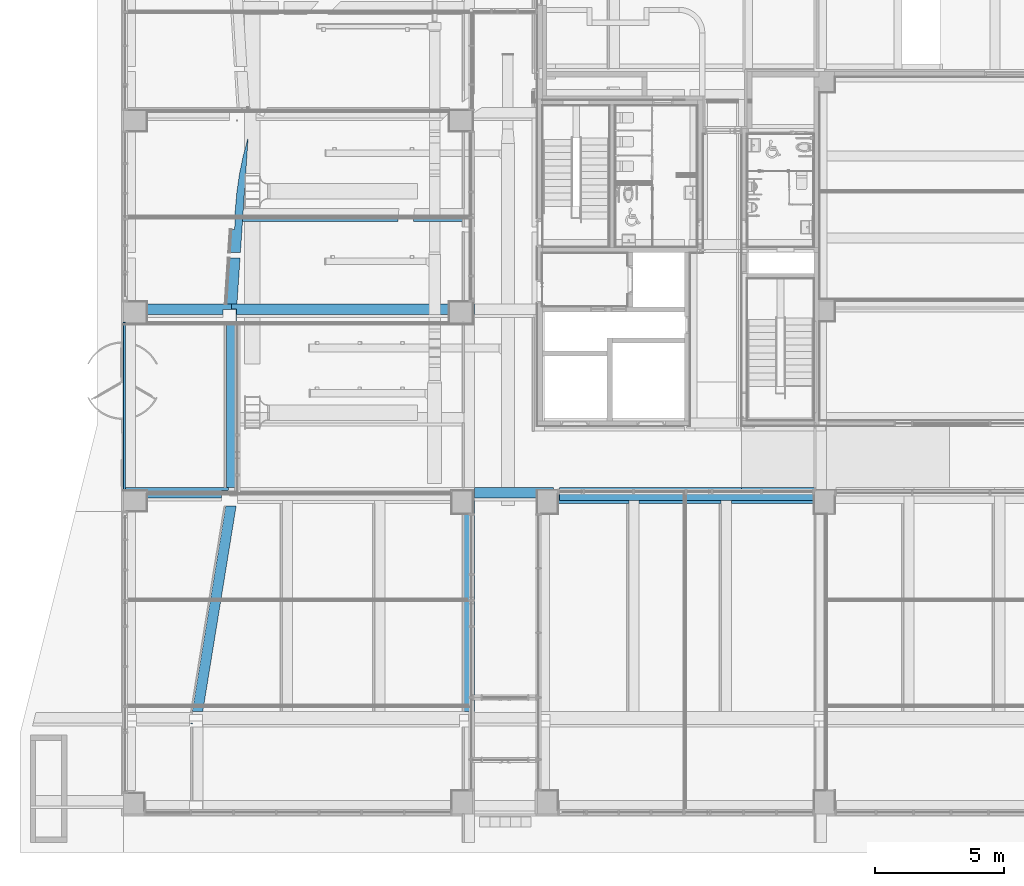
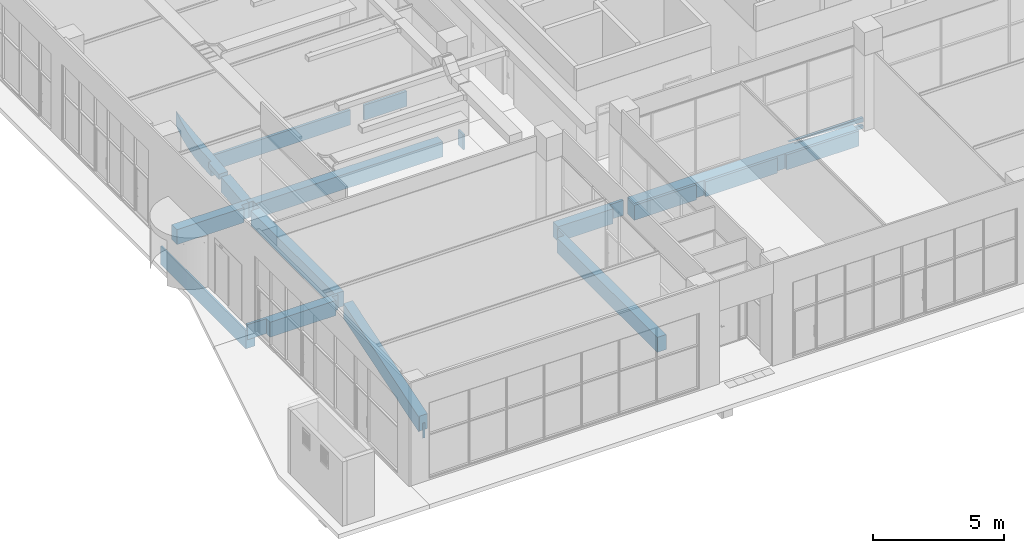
# One storey, part 55 of 100: 12 beams.
"""IFC2X3 building model written with IfcOpenShell, lengths in millimetres."""

from ifc_helpers import new_model, entity, si_unit, converted_unit, derived_unit, direction, frame, origin, place, context, subcontext, project, spatial, faceted_brep, source, transform, mapped, material, material_list, type_object, type_shapes, element, save


model = new_model("IFC2X3")

# Units and contexts
model_context = context("Model", 3, precision=0.01, world=origin(), true_north=direction((6.123031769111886e-17, 1.0)))
body_context = subcontext(model_context, "Body", "Model", "MODEL_VIEW")
ifc_project = project(units=[si_unit("LENGTHUNIT", "METRE", prefix="MILLI"), si_unit("AREAUNIT", "SQUARE_METRE"), si_unit("VOLUMEUNIT", "CUBIC_METRE"), converted_unit("PLANEANGLEUNIT", "DEGREE", entity("IfcRatioMeasure", 0.017453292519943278), si_unit("PLANEANGLEUNIT", "RADIAN"), dimensions=[0, 0, 0, 0, 0, 0, 0]), si_unit("MASSUNIT", "GRAM", prefix="KILO"), derived_unit("MASSDENSITYUNIT", [(si_unit("MASSUNIT", "GRAM", prefix="KILO"), 1), (si_unit("LENGTHUNIT", "METRE"), -3)]), derived_unit("MOMENTOFINERTIAUNIT", [(si_unit("LENGTHUNIT", "METRE"), 4)]), si_unit("TIMEUNIT", "SECOND"), si_unit("FREQUENCYUNIT", "HERTZ"), si_unit("THERMODYNAMICTEMPERATUREUNIT", "DEGREE_CELSIUS"), derived_unit("THERMALTRANSMITTANCEUNIT", [(si_unit("MASSUNIT", "GRAM", prefix="KILO"), 1), (si_unit("THERMODYNAMICTEMPERATUREUNIT", "KELVIN"), -1), (si_unit("TIMEUNIT", "SECOND"), -3)]), derived_unit("VOLUMETRICFLOWRATEUNIT", [(si_unit("LENGTHUNIT", "METRE"), 3), (si_unit("TIMEUNIT", "SECOND"), -1)]), derived_unit("MASSFLOWRATEUNIT", [(si_unit("MASSUNIT", "GRAM", prefix="KILO"), 1), (si_unit("TIMEUNIT", "SECOND"), -1)]), derived_unit("ROTATIONALFREQUENCYUNIT", [(si_unit("TIMEUNIT", "SECOND"), -1)]), si_unit("ELECTRICCURRENTUNIT", "AMPERE"), si_unit("ELECTRICVOLTAGEUNIT", "VOLT"), si_unit("POWERUNIT", "WATT"), si_unit("FORCEUNIT", "NEWTON", prefix="KILO"), si_unit("ILLUMINANCEUNIT", "LUX"), si_unit("LUMINOUSFLUXUNIT", "LUMEN"), si_unit("LUMINOUSINTENSITYUNIT", "CANDELA"), derived_unit("USERDEFINED", [(si_unit("MASSUNIT", "GRAM", prefix="KILO"), -1), (si_unit("LENGTHUNIT", "METRE"), -2), (si_unit("TIMEUNIT", "SECOND"), 3), (si_unit("LUMINOUSFLUXUNIT", "LUMEN"), 1)]), derived_unit("SOUNDPOWERUNIT", [(si_unit("MASSUNIT", "GRAM", prefix="KILO"), 1), (si_unit("LENGTHUNIT", "METRE"), 2), (si_unit("TIMEUNIT", "SECOND"), -3)]), derived_unit("SOUNDPRESSUREUNIT", [(si_unit("MASSUNIT", "GRAM", prefix="KILO"), 1), (si_unit("LENGTHUNIT", "METRE"), -1), (si_unit("TIMEUNIT", "SECOND"), -2)]), derived_unit("LINEARVELOCITYUNIT", [(si_unit("LENGTHUNIT", "METRE"), 1), (si_unit("TIMEUNIT", "SECOND"), -1)]), si_unit("PRESSUREUNIT", "PASCAL"), derived_unit("USERDEFINED", [(si_unit("LENGTHUNIT", "METRE"), -2), (si_unit("MASSUNIT", "GRAM", prefix="KILO"), 1), (si_unit("TIMEUNIT", "SECOND"), -2)]), derived_unit("LINEARFORCEUNIT", [(si_unit("MASSUNIT", "GRAM", prefix="KILO"), 1), (si_unit("LENGTHUNIT", "METRE"), 1), (si_unit("TIMEUNIT", "SECOND"), -2), (si_unit("LENGTHUNIT", "METRE"), -1)]), derived_unit("PLANARFORCEUNIT", [(si_unit("MASSUNIT", "GRAM", prefix="KILO"), 1), (si_unit("LENGTHUNIT", "METRE"), 1), (si_unit("TIMEUNIT", "SECOND"), -2), (si_unit("LENGTHUNIT", "METRE"), -2)])], contexts=[model_context])

# Site, building, storey
site_placement = place(None, frame((-14167.972527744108, -657.2125860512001, 0.0)))
site = spatial("IfcSite", under=ifc_project, at=site_placement, Name="Default", CompositionType="ELEMENT")
building_placement = place(site_placement, origin())
building = spatial("IfcBuilding", under=site, at=building_placement, Name="Sample Building", CompositionType="ELEMENT")
storey_placement = place(building_placement, origin())
storey = spatial("IfcBuildingStorey", under=building, at=storey_placement, Name="지상 1층", CompositionType="ELEMENT", Elevation=0.0)

# Beams
ifc_material = material(Name="KBIMS-콘크리트")
beam_type_1 = type_object("IfcBeamType", Name="BM111-철근콘크리트구조 보:BM110-철근 콘크리트구조 보_400 x 850_B1-1G3", PredefinedType="NOTDEFINED")
beam_1_placement = place(storey_placement, frame((14143.245899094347, 12771.077102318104, -850.0)))
element("IfcBeam", 1, at=beam_1_placement, inside=storey, type_object=beam_type_1, material=ifc_material, Name="BM111-철근콘크리트구조 보:BM110-철근 콘크리트구조 보_400 x 850_B1-1G3", ObjectType="BM111-철근콘크리트구조 보:BM110-철근 콘크리트구조 보_400 x 850_B1-1G3", context=body_context, shape_type="Brep", body=[
    faceted_brep([(0.0, 400.0, 700.0), (3824.7005496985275, 400.0, 700.0), (3900.0, 400.0, 700.0), (3992.2531717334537, 400.0, 700.0), (3992.253171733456, 400.0, 0.0), (3900.0, 400.0, 0.0), (3824.70054969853, 400.0, 0.0), (400.0, 400.0, 0.0), (400.0, 400.0, 450.0), (0.0, 400.0, 450.0), (824.7092060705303, 286.13551472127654, 0.0), (324.7005496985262, 286.13551472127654, 0.0), (0.0, 286.1355147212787, 0.0), (0.0, 287.00001284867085, 0.0), (324.7005496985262, 287.0000128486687, 0.0), (400.0, 287.0000128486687, 0.0), (3973.7501839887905, 286.1354620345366, 0.0), (3900.0, 286.1354620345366, 0.0), (3724.7005496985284, 286.1354620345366, 0.0), (3724.7005496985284, 0.0, 0.0), (824.7092060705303, 0.0, 0.0), (824.7092060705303, 0.0, 700.0), (3724.7005496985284, 0.0, 700.0), (0.0, 286.13551472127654, 700.0), (824.7092060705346, 286.13551472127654, 700.0), (3724.7005496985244, 286.1354620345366, 700.0), (3900.0, 286.1354620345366, 700.0), (3973.7501839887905, 286.1354620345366, 700.0), (0.0, 287.00001284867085, 450.0), (0.0, 286.13551472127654, 450.0), (400.0, 287.0000128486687, 450.0)], [[[0, 1, 2, 3, 4, 5, 6, 7, 8, 9]], [[10, 11, 12, 13, 14, 15, 7, 6, 5, 4, 16, 17, 18, 19, 20]], [[21, 20, 19, 22]], [[3, 2, 1, 0, 23, 24, 21, 22, 25, 26, 27]], [[23, 0, 9, 28, 13, 12, 29]], [[4, 3, 27, 16]], [[10, 24, 23, 29, 12, 11]], [[24, 10, 20, 21]], [[18, 25, 22, 19]], [[25, 18, 17, 16, 27, 26]], [[28, 30, 15, 14, 13]], [[30, 28, 9, 8]], [[15, 30, 8, 7]]]),
])
beam_2_placement = place(storey_placement, frame((27642.874705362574, 12771.077102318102, -850.0)))
element("IfcBeam", 2, at=beam_2_placement, inside=storey, type_object=beam_type_1, material=ifc_material, Name="BM111-철근콘크리트구조 보:BM110-철근 콘크리트구조 보_400 x 850_B1-1G3", ObjectType="BM111-철근콘크리트구조 보:BM110-철근 콘크리트구조 보_400 x 850_B1-1G3", context=body_context, shape_type="Brep", body=[
    faceted_brep([(0.0, 400.0, 700.0), (3050.379886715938, 400.0, 700.0), (3050.379886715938, 400.0, 0.0), (0.0, 400.0, 0.0), (3050.379886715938, 286.13551472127, 0.0), (2425.0804089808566, 286.13551472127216, 0.0), (2425.0804089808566, 0.0, 0.0), (0.0, 0.0, 0.0), (0.0, 0.0, 700.0), (2425.0804089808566, 0.0, 700.0), (2425.0804089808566, 286.13551472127, 700.0), (3050.379886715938, 286.13551472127, 700.0)], [[[0, 1, 2, 3]], [[3, 2, 4, 5, 6, 7]], [[8, 7, 6, 9]], [[1, 0, 8, 9, 10, 11]], [[2, 1, 11, 4]], [[0, 3, 7, 8]], [[5, 10, 9, 6]], [[10, 5, 4, 11]]]),
])
beam_3_placement = place(storey_placement, frame((14967.955105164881, 19871.077115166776, -850.0)))
element("IfcBeam", 3, at=beam_3_placement, inside=storey, type_object=beam_type_1, material=ifc_material, Name="BM111-철근콘크리트구조 보:BM110-철근 콘크리트구조 보_400 x 850_B1-1G3", ObjectType="BM111-철근콘크리트구조 보:BM110-철근 콘크리트구조 보_400 x 850_B1-1G3", context=body_context, shape_type="Brep", body=[
    faceted_brep([(3275.2907939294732, 400.0, 700.0), (3275.2907939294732, 400.0, 0.0), (3088.262040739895, 400.0, 0.0), (3020.6034975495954, 400.0, 0.0), (0.0, 400.0, 0.0), (0.0, 400.0, 700.0), (3020.603497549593, 400.0, 700.0), (3088.2620407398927, 400.0, 700.0), (3275.2907939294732, 200.0, 0.0), (3275.2907939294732, 186.1355018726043, 0.0), (2949.991343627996, 186.1355018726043, 0.0), (2949.991343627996, 0.0, 0.0), (0.0, 0.0, 0.0), (0.0, 0.0, 700.0), (2949.991343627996, 0.0, 700.0), (2949.991343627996, 186.1355018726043, 700.0), (3275.2907939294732, 186.1355018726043, 700.0), (3275.2907939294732, 200.0, 700.0)], [[[0, 1, 2, 3, 4, 5, 6, 7]], [[4, 3, 2, 1, 8, 9, 10, 11, 12]], [[13, 12, 11, 14]], [[0, 7, 6, 5, 13, 14, 15, 16, 17]], [[1, 0, 17, 16, 9, 8]], [[5, 4, 12, 13]], [[10, 15, 14, 11]], [[15, 10, 9, 16]]]),
])
beam_type_2 = type_object("IfcBeamType", Name="BM111-철근콘크리트구조 보:BM110-철근 콘크리트구조 보_500 x 850_B1-1G5", PredefinedType="NOTDEFINED")
beam_4_placement = place(storey_placement, frame((30934.217765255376, 12671.0771023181, -850.0)))
element("IfcBeam", 4, at=beam_4_placement, inside=storey, type_object=beam_type_2, material=ifc_material, Name="BM111-철근콘크리트구조 보:BM110-철근 콘크리트구조 보_500 x 850_B1-1G5", ObjectType="BM111-철근콘크리트구조 보:BM110-철근 콘크리트구조 보_500 x 850_B1-1G5", context=body_context, shape_type="Brep", body=[
    faceted_brep([(0.0, 500.0, 0.0), (0.0, 386.1355018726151, 0.0), (0.0, 0.0, 0.0), (0.0, 0.0, 700.0), (0.0, 386.1355018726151, 700.0), (0.0, 500.0, 700.0), (7033.746032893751, 500.0, 850.0), (7033.74603289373, 386.13528076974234, 850.0), (10033.746032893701, 386.13528076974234, 850.0), (10309.036826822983, 386.13528076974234, 850.0), (10309.036826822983, 500.0, 850.0), (10309.036826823, 500.0, 646.4004949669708), (9833.737376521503, 500.0, 0.0), (9909.036826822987, 500.0, 0.0), (9909.036826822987, 386.13551472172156, 0.0), (9833.737376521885, 386.13551472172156, 0.0), (9833.737376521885, 0.0, 0.0), (6642.361467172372, 0.0, 0.0), (6242.361467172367, 0.0, 0.0), (3075.6948005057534, 0.0, 0.0), (2675.694800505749, 0.0, 0.0), (9833.737376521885, 0.0, 700.0), (6642.361467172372, 0.0, 700.0), (6242.361467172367, 0.0, 700.0), (3075.6948005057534, 0.0, 700.0), (2675.694800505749, 0.0, 700.0), (9909.036826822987, 500.0, 350.0), (10309.036826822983, 500.0, 350.0), (10309.036826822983, 386.13551472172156, 350.0), (9909.036826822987, 386.13551472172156, 350.0), (7033.746032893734, 500.0, 700.0), (9833.737376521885, 386.13528076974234, 700.0), (9446.785391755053, 386.1352807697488, 700.0), (7033.74603289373, 386.13528076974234, 700.0), (9833.737376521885, 386.1352807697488, 525.6566552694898), (10309.036826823, 386.13551472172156, 496.1109633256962), (7033.74603289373, 500.0, 699.7104683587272), (7033.74603289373, 386.1352807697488, 699.7104683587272), (9833.737376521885, 386.13551472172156, 525.6566552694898), (10309.036826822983, 386.13528076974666, 496.110963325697), (10309.036826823, 500.0, 496.1109633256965), (10309.036826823, 386.13551472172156, 646.4004949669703), (9833.737376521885, 386.1352807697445, 675.9461869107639), (10309.036826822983, 386.13528076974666, 646.4004949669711), (9833.737376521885, 386.13551472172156, 675.9461869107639)], [[[0, 1, 2, 3, 4, 5]], [[6, 7, 8, 9, 10]], [[11, 6, 10]], [[2, 1, 0, 12, 13, 14, 15, 16, 17, 18, 19, 20]], [[3, 2, 20, 19, 18, 17, 16, 21, 22, 23, 24, 25]], [[26, 27, 28, 29]], [[13, 26, 29, 14]], [[30, 5, 4, 3, 25, 24, 23, 22, 21, 31, 32, 33]], [[34, 15, 14, 29, 28, 35]], [[36, 37, 38, 39, 40]], [[7, 6, 11, 41, 42, 32]], [[33, 37, 36, 30]], [[37, 33, 32, 42, 34]], [[27, 26, 13, 12, 0, 5, 30, 36, 40]], [[11, 10, 9, 43]], [[42, 31, 21, 16, 15, 34]], [[7, 32, 31, 44, 41, 9, 8]], [[27, 40, 35, 28]]]),
])
ifc_material_list_1 = material_list([ifc_material, ifc_material])
ifc_material_list_2 = material_list([ifc_material, ifc_material])
beam_type_3 = type_object("IfcBeamType", Name="BM111-철근콘크리트구조 보:BM110-철근 콘크리트구조 보_400 x 850_B1-1G2", PredefinedType="BEAM", material=ifc_material_list_2)
shared_shape_1 = source(origin(), body_context, "Body", "Brep", [
    faceted_brep([(0.0, 400.0, 0.0), (0.0, 400.0, 700.0), (213.87085845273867, 400.0, 700.0), (8424.709242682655, 400.0, 700.0), (8424.709242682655, 400.0, 0.0), (213.87085845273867, 400.0, 0.0), (8424.709242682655, 0.0, 0.0), (200.0, 0.0, 0.0), (200.0, 200.0, 0.0), (0.0, 200.0, 0.0), (8424.709242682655, 0.0, 700.0), (200.0, 0.0, 700.0), (0.0, 200.0, 700.0), (200.0, 200.0, 700.0)], [[[0, 1, 2, 3, 4, 5]], [[0, 5, 4, 6, 7, 8, 9]], [[6, 10, 11, 7]], [[3, 2, 1, 12, 13, 11, 10]], [[1, 0, 9, 12]], [[4, 3, 10, 6]], [[13, 8, 7, 11]], [[8, 13, 12, 9]]]),
    faceted_brep([(9399.628806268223, 0.0, 0.0), (9399.628806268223, 400.0, 0.0), (9399.628806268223, 400.0, 700.0), (9399.628806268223, 0.0, 700.0), (9324.709242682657, 400.0, 0.0), (9324.709242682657, 0.0, 0.0), (9324.709206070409, 0.0, 700.0), (9324.709206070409, 286.1351928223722, 700.0), (9324.709212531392, 400.0, 700.0), (9324.709212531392, 0.0, 700.0), (9324.709206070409, 400.0, 700.0)], [[[0, 1, 2, 3]], [[4, 5, 6, 7, 8]], [[1, 4, 8, 2]], [[1, 0, 5, 4]], [[5, 0, 3, 9]], [[2, 10, 7, 9, 3]]]),
])
type_shapes(beam_type_3, [shared_shape_1])
beam_5_placement = place(storey_placement, frame((18243.245899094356, 19871.077115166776, -850.0)))
element("IfcBeam", 5, at=beam_5_placement, inside=storey, type_object=beam_type_3, material=ifc_material_list_1, Name="BM111-철근콘크리트구조 보:BM110-철근 콘크리트구조 보_400 x 850_B1-1G2", ObjectType="BM111-철근콘크리트구조 보:BM110-철근 콘크리트구조 보_400 x 850_B1-1G2", context=body_context, shape_type="MappedRepresentation", body=[
    mapped(shared_shape_1, transform((0.0, 0.0, 0.0), scale=1.0)),
])
beam_6_placement = place(storey_placement, frame((27242.87470536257, 4521.0771902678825, -850.0), z_axis=(0.0, 0.0, 1.0), x_axis=(0.0, -1.0, 0.0)))
element("IfcBeam", 6, at=beam_6_placement, inside=storey, type_object=beam_type_3, material=ifc_material, Name="BM111-철근콘크리트구조 보:BM110-철근 콘크리트구조 보_400 x 850_B1-1G2", ObjectType="BM111-철근콘크리트구조 보:BM110-철근 콘크리트구조 보_400 x 850_B1-1G2", context=body_context, shape_type="Brep", body=[
    faceted_brep([(0.0, 0.0, 0.0), (0.0, 0.0, 700.0), (-7636.13542677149, 0.0, 700.0), (-7636.13542677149, 0.0, 0.0), (0.0, 0.3625007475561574, 0.0), (0.0, 400.0, 0.0), (0.0, 400.0, 700.0), (0.0, 0.3625007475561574, 700.0), (-8149.999859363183, 400.0, 700.0), (-8149.999859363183, 400.0, 0.0), (-8149.999859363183, 325.0804364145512, 0.0), (-8149.999859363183, 325.0804364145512, 700.0), (-7636.13542677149, 325.0804364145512, 700.0), (-7636.13542677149, 325.0804364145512, 0.0), (-8136.135413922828, 400.0, 0.0), (-8136.135413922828, 400.0, 700.0)], [[[0, 1, 2, 3]], [[1, 0, 4, 5, 6, 7]], [[8, 9, 10, 11]], [[12, 13, 3, 2]], [[13, 12, 11, 10]], [[6, 5, 14, 9, 8, 15]], [[9, 14, 5, 4, 0, 3, 13, 10]], [[6, 15, 8, 11, 12, 2, 1, 7]]]),
])
beam_7_placement = place(storey_placement, frame((14067.946448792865, 13057.212617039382, -1250.0), z_axis=(0.0, 0.0, 1.0), x_axis=(0.0, 1.0, 0.0)))
element("IfcBeam", 7, at=beam_7_placement, inside=storey, type_object=beam_type_3, material=ifc_material, Name="BM111-철근콘크리트구조 보:BM110-철근 콘크리트구조 보_400 x 850_B1-1G2", ObjectType="BM111-철근콘크리트구조 보:BM110-철근 콘크리트구조 보_400 x 850_B1-1G2", context=body_context, shape_type="Brep", body=[
    faceted_brep([(0.0, 0.0, 850.0), (0.0, 0.0, 0.0), (0.0, -400.0, 0.0), (0.0, -400.0, 400.0), (0.0, -75.2994503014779, 400.0), (0.0, -75.2994503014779, 850.0), (6500.0, 0.0, 850.0), (0.8644981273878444, -75.2994503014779, 850.0), (6500.0, -75.29945030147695, 850.0), (0.8644981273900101, -400.0, 0.0), (0.8644981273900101, -400.0, 400.0), (6500.0, 0.0, 0.0), (6500.0, -75.29945030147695, 0.0), (0.8644981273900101, -75.2994503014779, 0.0), (0.8644981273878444, -75.2994503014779, 400.0)], [[[0, 1, 2, 3, 4, 5]], [[6, 0, 5, 7, 8]], [[2, 9, 10, 3]], [[2, 1, 11, 12, 13, 9]], [[1, 0, 6, 11]], [[11, 6, 8, 12]], [[9, 13, 14, 10]], [[13, 12, 8, 7, 5, 4, 14]], [[14, 4, 3, 10]]]),
])
ifc_material_list_3 = material_list([ifc_material, ifc_material])
ifc_material_list_4 = material_list([ifc_material, ifc_material])
beam_type_4 = type_object("IfcBeamType", Name="BM111-철근콘크리트구조 보:BM110-철근 콘크리트구조 보_400 x 850_B1-1G2", PredefinedType="BEAM", material=ifc_material_list_4)
shared_shape_2 = source(origin(), body_context, "Body", "Brep", [
    faceted_brep([(481.6677806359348, 484.8740394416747, 700.0), (481.6677806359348, 484.8740394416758, 0.0), (1771.28980159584, 8421.009413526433, 0.0), (1771.28980159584, 8421.009413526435, 700.0), (89.79278077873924, 484.87403944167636, 0.0), (89.79278077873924, 484.87403944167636, 700.0), (1366.042963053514, 8421.009413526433, 700.0), (68.2959419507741, 434.8740394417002, 700.0), (89.79278077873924, 434.8740394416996, 700.0), (68.29594195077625, 434.8740394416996, 0.0), (89.79278077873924, 434.8740394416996, 0.0), (1366.042963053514, 8421.009413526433, 0.0)], [[[0, 1, 2, 3]], [[4, 1, 0, 5]], [[5, 0, 3, 6, 7, 8]], [[9, 10, 8, 7]], [[3, 2, 11, 6]], [[1, 4, 10, 9, 11, 2]], [[9, 7, 6, 11]], [[4, 5, 8, 10]]]),
    faceted_brep([(3.295940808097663, 34.87403944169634, 0.0), (89.79278077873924, 34.87403944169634, 0.0), (89.79278077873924, 0.0, 0.0), (0.0, 14.591327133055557, 0.0), (0.0, 14.5913271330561, 700.0), (3.295940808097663, 34.87403944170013, 700.0), (89.79278077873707, 0.0, 700.0), (89.79278077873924, 34.87403944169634, 700.0)], [[[0, 1, 2, 3]], [[0, 3, 4, 5]], [[3, 2, 6, 4]], [[1, 0, 5, 7]], [[2, 1, 7, 6]], [[5, 4, 6, 7]]]),
])
type_shapes(beam_type_4, [shared_shape_2])
beam_8_placement = place(storey_placement, frame((16653.45311831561, 4036.2031508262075, -850.0)))
element("IfcBeam", 8, at=beam_8_placement, inside=storey, type_object=beam_type_4, material=ifc_material_list_3, Name="BM111-철근콘크리트구조 보:BM110-철근 콘크리트구조 보_400 x 850_B1-1G2", ObjectType="BM111-철근콘크리트구조 보:BM110-철근 콘크리트구조 보_400 x 850_B1-1G2", context=body_context, shape_type="MappedRepresentation", body=[
    mapped(shared_shape_2, transform((0.0, 0.0, 0.0), scale=1.0)),
])
beam_type_5 = type_object("IfcBeamType", Name="BM111-철근콘크리트구조 보:BM110-철근 콘크리트구조 보_400 x 850_B1-1G4", PredefinedType="NOTDEFINED")
beam_9_placement = place(storey_placement, frame((18043.24589909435, 13171.077049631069, -850.0), z_axis=(0.0, 0.0, 1.0), x_axis=(0.0, 1.0, 0.0)))
element("IfcBeam", 9, at=beam_9_placement, inside=storey, type_object=beam_type_5, material=ifc_material, Name="BM111-철근콘크리트구조 보:BM110-철근 콘크리트구조 보_400 x 850_B1-1G4", ObjectType="BM111-철근콘크리트구조 보:BM110-철근 콘크리트구조 보_400 x 850_B1-1G4", context=body_context, shape_type="Brep", body=[
    faceted_brep([(6900.00006553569, -400.0, 700.0), (6700.000065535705, -400.0, 700.0), (6586.135567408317, -400.0, 700.0), (2900.0000113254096, -400.0, 700.0), (2500.0000113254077, -400.0, 700.0), (2386.135513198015, -400.0, 700.0), (0.0, -400.0, 700.0), (0.0, -400.0, 0.0), (2386.135513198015, -400.0, 0.0), (2500.0000113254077, -400.0, 0.0), (2900.0000113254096, -400.0, 0.0), (6586.135567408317, -400.0, 0.0), (6700.000065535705, -400.0, 0.0), (6900.00006553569, -400.0, 0.0), (6900.00006553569, -200.0, 0.0), (4.053567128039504e-05, -92.25316317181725, 0.0), (5.268703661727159e-05, 0.0, 0.0), (6386.135567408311, 0.0, 0.0), (6386.135567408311, -374.70054969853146, 0.0), (6886.135567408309, -374.7005496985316, 0.0), (6886.135567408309, -200.0, 0.0), (6386.135567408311, 0.0, 700.0), (5.268703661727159e-05, 0.0, 700.0), (4.053567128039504e-05, -92.25316317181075, 700.0), (6900.00006553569, -200.0, 700.0), (6886.135567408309, -200.0, 700.0), (6886.135567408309, -374.7005496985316, 700.0), (6386.135567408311, -374.70054969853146, 700.0)], [[[0, 1, 2, 3, 4, 5, 6, 7, 8, 9, 10, 11, 12, 13]], [[14, 13, 12, 11, 10, 9, 8, 7, 15, 16, 17, 18, 19, 20]], [[21, 17, 16, 22]], [[22, 23, 6, 5, 4, 3, 2, 1, 0, 24, 25, 26, 27, 21]], [[7, 6, 23, 22, 16, 15]], [[13, 14, 24, 0]], [[24, 14, 20, 25]], [[18, 27, 26, 19]], [[27, 18, 17, 21]], [[19, 26, 25, 20]]]),
])
ifc_material_list_5 = material_list([ifc_material, ifc_material])
ifc_material_list_6 = material_list([ifc_material, ifc_material])
beam_type_6 = type_object("IfcBeamType", Name="BM111-철근콘크리트구조 보:BM110-철근 콘크리트구조 보_400 x 850_B1-1G4", PredefinedType="BEAM", material=ifc_material_list_6)
shared_shape_3 = source(origin(), body_context, "Body", "Brep", [
    faceted_brep([(400.89961164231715, 0.0, 700.0), (400.89961164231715, 0.0, 0.0), (520.758683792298, 1786.1351928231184, 0.0), (520.758683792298, 1786.1351928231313, 700.0), (119.85907214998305, 1786.1351928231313, 0.0), (187.02875318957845, 0.0, 0.0), (0.0, 0.0, 0.0), (0.0, 0.0, 700.0), (119.85907214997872, 1786.1351928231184, 700.0), (187.02875318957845, 0.0, 700.0)], [[[0, 1, 2, 3]], [[4, 2, 1, 5, 6]], [[6, 7, 8, 4]], [[1, 0, 9, 7, 6, 5]], [[7, 9, 0, 3, 8]], [[3, 2, 4, 8]]]),
    faceted_brep([(133.280124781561, 1986.1351928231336, 700.0), (133.280124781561, 1986.1351928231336, 450.0), (534.1797364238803, 1986.1351928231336, 450.0), (534.1797364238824, 1986.1351928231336, 700.0), (594.5744732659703, 2886.1351928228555, 450.0), (594.5744732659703, 2886.1351928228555, 0.0), (614.7060720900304, 3186.135489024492, 0.0), (622.3469792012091, 3299.9999871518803, 0.0), (649.1890844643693, 3699.999987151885, 0.0), (833.380762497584, 6444.817149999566, 0.0), (833.380762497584, 6444.817149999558, 700.0), (649.1890844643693, 3699.999987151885, 700.0), (622.3469792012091, 3299.9999871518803, 700.0), (614.7060720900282, 3186.135489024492, 700.0), (311.75534522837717, 2886.135192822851, 0.0), (332.7623779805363, 3607.615003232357, 0.0), (395.7122995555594, 4326.650273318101, 0.0), (500.39182107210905, 5040.804745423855, 0.0), (646.4462641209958, 5747.658699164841, 0.0), (193.6748616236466, 2886.1351928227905, 700.0), (193.6748616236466, 2886.1351928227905, 450.0), (332.76237798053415, 3607.615003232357, 700.0), (311.75534522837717, 2886.1351928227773, 700.0), (646.4462641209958, 5747.658699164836, 700.0), (500.39182107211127, 5040.804745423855, 700.0), (395.7122995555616, 4326.650273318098, 700.0), (311.75534522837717, 2886.135192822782, 450.0)], [[[0, 1, 2, 3]], [[4, 5, 6, 7, 8, 9, 10, 11, 12, 13, 3, 2]], [[14, 15, 16, 17, 18, 9, 8, 7, 6, 5]], [[19, 20, 1, 0]], [[21, 22, 19, 0, 3, 13, 12, 11, 10, 23, 24, 25]], [[21, 25, 16, 15]], [[22, 21, 15, 14, 26]], [[23, 10, 9, 18]], [[24, 23, 18, 17]], [[16, 25, 24, 17]], [[26, 20, 19, 22]], [[26, 14, 5, 4]], [[26, 4, 2, 1, 20]]]),
])
type_shapes(beam_type_6, [shared_shape_3])
beam_10_placement = place(storey_placement, frame((18056.217145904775, 20271.07711516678, -850.0)))
element("IfcBeam", 10, at=beam_10_placement, inside=storey, type_object=beam_type_6, material=ifc_material_list_5, Name="BM111-철근콘크리트구조 보:BM110-철근 콘크리트구조 보_400 x 850_B1-1G4", ObjectType="BM111-철근콘크리트구조 보:BM110-철근 콘크리트구조 보_400 x 850_B1-1G4", context=body_context, shape_type="MappedRepresentation", body=[
    mapped(shared_shape_3, transform((0.0, 0.0, 0.0), scale=1.0)),
])
ifc_material_list_7 = material_list([ifc_material, ifc_material, ifc_material])
ifc_material_list_8 = material_list([ifc_material, ifc_material, ifc_material])
beam_type_7 = type_object("IfcBeamType", Name="BM111-철근콘크리트구조 보:BM110-철근 콘크리트구조 보_500 x 850_B1-1G5", PredefinedType="BEAM", material=ifc_material_list_8)
shared_shape_4 = source(origin(), body_context, "Body", "Brep", [
    faceted_brep([(9896.673653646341, 0.0, 0.0), (6705.297744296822, 0.0, 0.0), (6705.297744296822, 113.86449812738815, 0.0), (9896.673653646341, 113.86449812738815, 0.0), (9896.673653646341, 0.0, 700.0), (6705.297744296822, 0.0, 700.0), (9896.673653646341, 113.86449812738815, 700.0), (6705.297744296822, 113.86449812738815, 700.0)], [[[0, 1, 2, 3]], [[1, 0, 4, 5]], [[4, 0, 3, 6]], [[5, 4, 6, 7]], [[1, 5, 7, 2]], [[3, 2, 7, 6]]]),
    faceted_brep([(0.0, 500.0, 0.0), (0.0, 0.0, 0.0), (0.0, 0.0, 700.0), (0.0, 500.0, 700.0), (2738.6310776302, 0.0, 700.0), (2738.6310776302, 0.0, 0.0), (2738.6310776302, 113.86449812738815, 0.0), (2738.6310776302, 113.86449812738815, 700.0), (62.936277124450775, 500.0, 700.0), (62.936277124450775, 500.0, 0.0), (62.936277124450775, 113.86449812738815, 0.0), (2663.3316273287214, 0.0, 0.0), (2663.3316273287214, 0.0, 700.0), (62.936277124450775, 113.86449812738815, 700.0)], [[[0, 1, 2, 3]], [[4, 5, 6, 7]], [[0, 3, 8, 9]], [[1, 0, 9, 10, 6, 5, 11]], [[2, 1, 11, 5, 4, 12]], [[3, 2, 12, 4, 7, 13, 8]], [[13, 10, 9, 8]], [[10, 13, 7, 6]]]),
    faceted_brep([(3138.631077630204, 0.0, 0.0), (3138.631077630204, 0.0, 700.0), (3138.631077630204, 113.86449812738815, 700.0), (3138.631077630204, 113.86449812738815, 0.0), (6305.297744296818, 0.0, 700.0), (6305.297744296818, 0.0, 0.0), (6305.297744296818, 113.86449812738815, 0.0), (6305.297744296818, 113.86449812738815, 700.0), (6229.99829399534, 0.0, 0.0), (6229.99829399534, 0.0, 700.0)], [[[0, 1, 2, 3]], [[4, 5, 6, 7]], [[5, 8, 0, 3, 6]], [[1, 0, 8, 5, 4, 9]], [[1, 9, 4, 7, 2]], [[3, 2, 7, 6]]]),
])
type_shapes(beam_type_7, [shared_shape_4])
beam_11_placement = place(storey_placement, frame((30871.281488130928, 12557.212604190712, -850.0)))
element("IfcBeam", 11, at=beam_11_placement, inside=storey, type_object=beam_type_7, material=ifc_material_list_7, Name="BM111-철근콘크리트구조 보:BM110-철근 콘크리트구조 보_500 x 850_B1-1G5", ObjectType="BM111-철근콘크리트구조 보:BM110-철근 콘크리트구조 보_500 x 850_B1-1G5", context=body_context, shape_type="MappedRepresentation", body=[
    mapped(shared_shape_4, transform((0.0, 0.0, 0.0), scale=1.0)),
])
ifc_material_list_9 = material_list([ifc_material, ifc_material])
ifc_material_list_10 = material_list([ifc_material, ifc_material])
beam_type_8 = type_object("IfcBeamType", Name="BM111-철근콘크리트구조 보:BM110-철근 콘크리트구조 보_400 x 800_B1-1B2", PredefinedType="BEAM", material=ifc_material_list_10)
shared_shape_5 = source(origin(), body_context, "Body", "Brep", [
    faceted_brep([(0.0, 1.595272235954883, 0.0), (7.640907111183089, 115.45977036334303, 0.0), (6011.1051449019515, 115.45977036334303, 0.0), (6007.501833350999, 58.543121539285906, 0.0), (6004.43080303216, 1.595272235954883, 0.0), (0.0, 1.595272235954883, 700.0), (6004.4308030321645, 1.595272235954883, 700.0), (6007.501833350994, 58.543121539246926, 700.0), (6011.1051449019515, 115.45977036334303, 700.0), (7.640907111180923, 115.45977036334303, 700.0)], [[[0, 1, 2, 3, 4]], [[5, 0, 4, 6]], [[6, 7, 8, 9, 5]], [[2, 1, 9, 8]], [[0, 5, 9, 1]], [[7, 3, 2, 8]], [[6, 4, 3, 7]]]),
    faceted_brep([(8497.023230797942, 1.595272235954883, 700.0), (8497.023230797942, 1.595272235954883, 0.0), (8497.023230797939, 115.45977036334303, 0.0), (8497.023230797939, 115.45977036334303, 700.0), (6605.237202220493, 1.5952722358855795, 700.0), (6608.644637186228, 58.546726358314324, 700.0), (6608.644637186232, 58.54672635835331, 0.0), (6605.237202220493, 1.5952722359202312, 0.0), (6612.642656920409, 115.45977036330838, 700.0), (6612.642656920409, 115.45977036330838, 0.0)], [[[0, 1, 2, 3]], [[4, 5, 6, 7]], [[6, 5, 8, 9]], [[7, 6, 9, 2, 1]], [[4, 7, 1, 0]], [[0, 3, 8, 5, 4]], [[3, 2, 9, 8]]]),
])
type_shapes(beam_type_8, [shared_shape_5])
beam_12_placement = place(storey_placement, frame((18670.9232179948, 23455.617331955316, -850.0)))
element("IfcBeam", 12, at=beam_12_placement, inside=storey, type_object=beam_type_8, material=ifc_material_list_9, Name="BM111-철근콘크리트구조 보:BM110-철근 콘크리트구조 보_400 x 800_B1-1B2", ObjectType="BM111-철근콘크리트구조 보:BM110-철근 콘크리트구조 보_400 x 800_B1-1B2", context=body_context, shape_type="MappedRepresentation", body=[
    mapped(shared_shape_5, transform((0.0, 0.0, 0.0), scale=1.0)),
])

save(model, "model.ifc")
